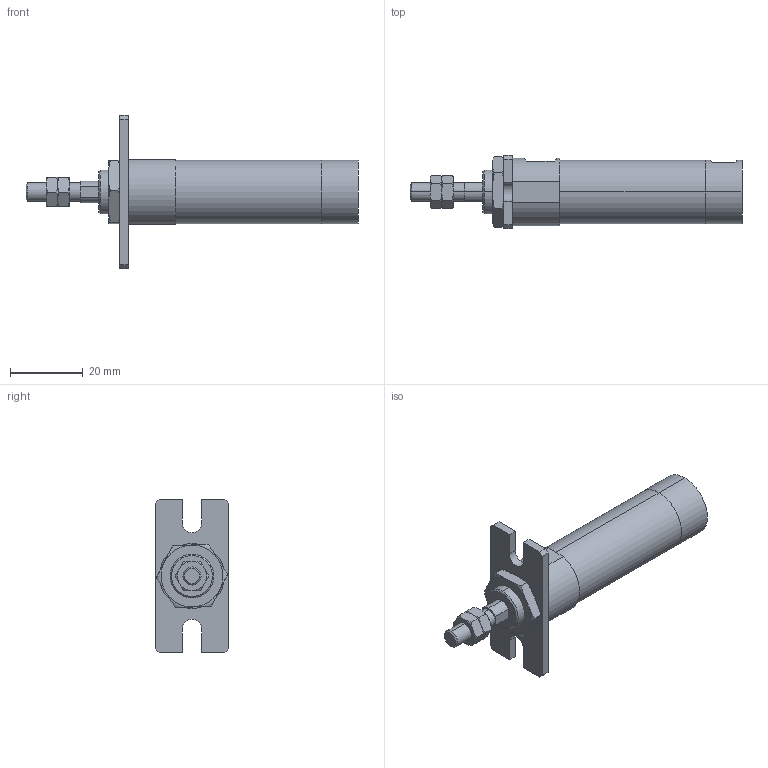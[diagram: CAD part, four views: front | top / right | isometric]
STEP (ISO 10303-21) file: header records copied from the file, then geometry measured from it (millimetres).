
FILE_DESCRIPTION (( 'STEP AP203' ), '1' );
FILE_NAME ('ZGU2-16-15-A.STEP', '2016-03-31T00:57:07', ( '' ), ( '' ), 'SwSTEP 2.0', 'SolidWorks 2014', '' );
FILE_SCHEMA (( 'CONFIG_CONTROL_DESIGN' ));
Length unit declared in the file: millimetre
Products named in the file (5): Z-16-A; ZGU2-16-15; ZGU2-16-15-A
Assembly tree (5 placements, depth 2):
  ZGU2-16-15-A
    ZGU2-16-15
    (unnamed)  x2
    (unnamed)
    Z-16-A
Bounding box: 91 x 20 x 42 mm (x, y, z)
Volume: 18304.7 mm3; surface area: 7344.6 mm2
Topology: 5 solids, 5 shells, 129 faces, 292 edges, 178 vertices
Faces by surface type: plane 57, torus 36, cylinder 28, cone 8
Entity records: 3825 total; most frequent: CARTESIAN_POINT 917, DIRECTION 498, ORIENTED_EDGE 480, EDGE_CURVE 240, AXIS2_PLACEMENT_3D 195, VERTEX_POINT 150, EDGE_LOOP 122, LINE 108
